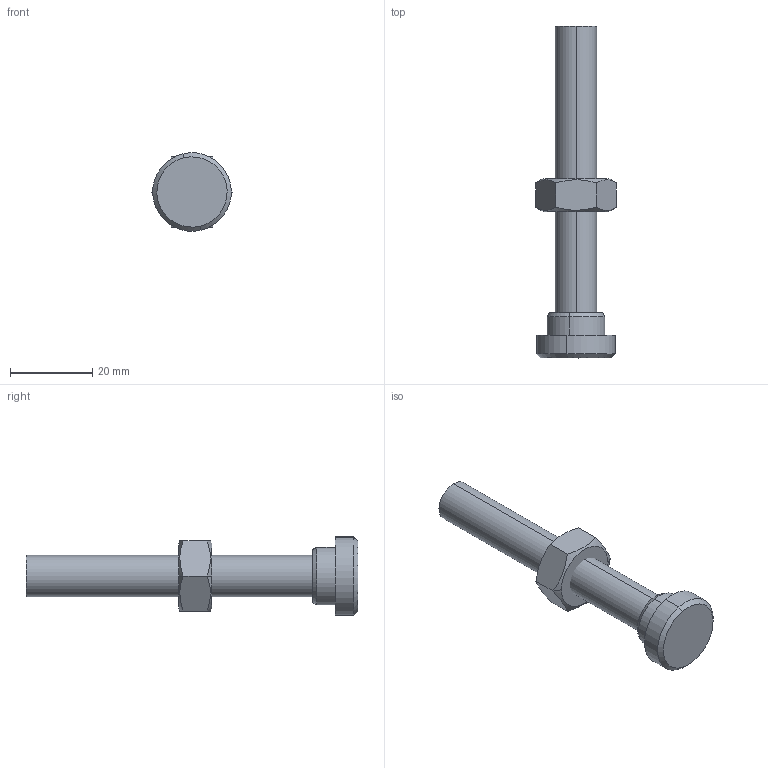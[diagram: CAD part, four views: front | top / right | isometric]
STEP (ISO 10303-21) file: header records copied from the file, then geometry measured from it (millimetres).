
FILE_DESCRIPTION (( 'STEP AP203' ), '1' );
FILE_NAME ('PA-M10.STEP', '2011-05-20T18:04:05', ( 'Usuario' ), ( '' ), 'SwSTEP 2.0', 'SolidWorks 2011', '' );
FILE_SCHEMA (( 'CONFIG_CONTROL_DESIGN' ));
Length unit declared in the file: millimetre
Products named in the file (4): 11.50003; 20.20003; PA-M10; 20.20002
Assembly tree (3 placements, depth 2):
  PA-M10
    20.20002
    11.50003
    20.20003
Bounding box: 19.63 x 80.5 x 19.02 mm (x, y, z)
Volume: 9151.2 mm3; surface area: 4957.2 mm2
Topology: 3 solids, 3 shells, 44 faces, 94 edges, 57 vertices
Faces by surface type: cone 18, plane 14, cylinder 12
Entity records: 1694 total; most frequent: CARTESIAN_POINT 323, DIRECTION 224, ORIENTED_EDGE 184, AXIS2_PLACEMENT_3D 94, EDGE_CURVE 92, VERTEX_POINT 57, EDGE_LOOP 49, FACE_OUTER_BOUND 44
